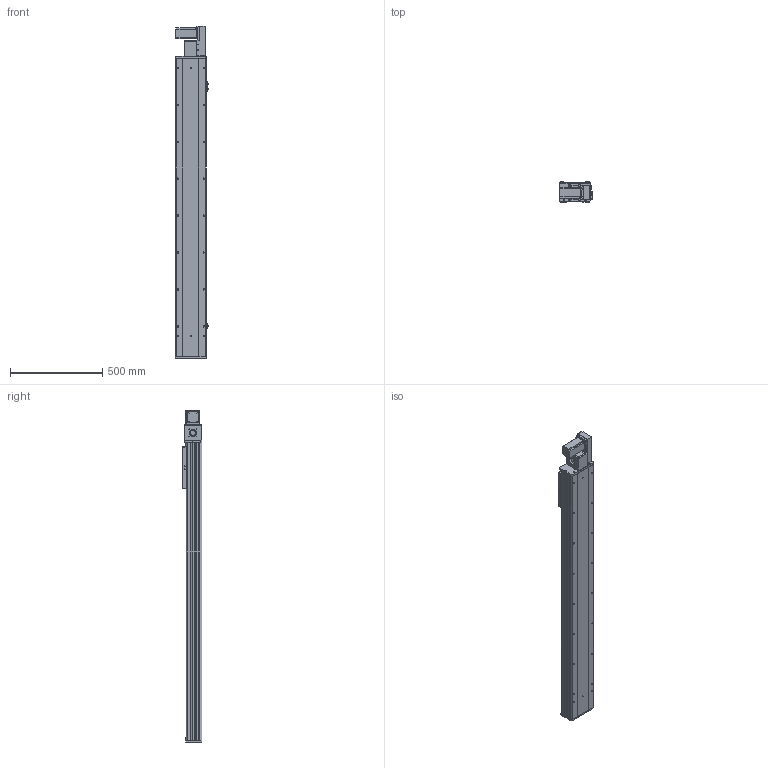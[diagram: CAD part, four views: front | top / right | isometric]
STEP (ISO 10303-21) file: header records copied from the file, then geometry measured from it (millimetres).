
FILE_DESCRIPTION (( 'STEP AP203' ), '1' );
FILE_NAME ('Y170CB-D105-S1300-BR-P400W.STEP', '2020-02-19T09:16:16', ( '微软用户' ), ( '微软中国' ), 'SwSTEP 2.0', 'SolidWorks 2017', '' );
FILE_SCHEMA (( 'CONFIG_CONTROL_DESIGN' ));
Length unit declared in the file: millimetre
Products named in the file (17): Y170CB-陔俋离換覜結え---; 70B喘謫眊----; Y170CB-D105-S1300-BR-P400W; Y100-135俋离換覜ん--; B-源倛裔啣; 17B-耜蚾蟀諉啣----; 0B-萇儂楊擘啣; san松下电机400不带刹车----; 70CB-掛极-; --70CB --喘謫眊楊擘啣-; 70CB-耜裔啣-; 70CB-詩湍--; 70C--詩湍揤踡え-; Y70俋欶BR----; 70CB--耜裔; 70C-雄赽釱-奻-; 0C--雄赽釱俋欶-170
Assembly tree (20 placements, depth 2):
  Y170CB-D105-S1300-BR-P400W
    70B喘謫眊----
    B-源倛裔啣
    17B-耜蚾蟀諉啣----
    0B-萇儂楊擘啣
    san松下电机400不带刹车----
    Y70俋欶BR----
    70CB-掛极-
    --70CB --喘謫眊楊擘啣-
    70CB-耜裔啣-  x2
    70C--詩湍揤踡え-  x2
    70CB--耜裔
    70C-雄赽釱-奻-
    0C--雄赽釱俋欶-170
    70CB-詩湍--
    Y100-135俋离換覜ん--  x3
    Y170CB-陔俋离換覜結え---
Bounding box: 183.5 x 107 x 1797 mm (x, y, z)
Volume: 7712943.5 mm3; surface area: 2764011.1 mm2
Topology: 20 solids, 20 shells, 1009 faces, 2705 edges, 1794 vertices
Faces by surface type: cylinder 523, plane 462, cone 24
Entity records: 32043 total; most frequent: CARTESIAN_POINT 5901, DIRECTION 5212, ORIENTED_EDGE 4892, EDGE_CURVE 2446, AXIS2_PLACEMENT_3D 1905, VERTEX_POINT 1624, LINE 1402, VECTOR 1402
